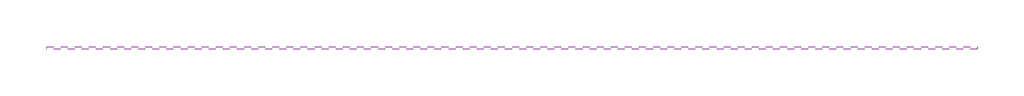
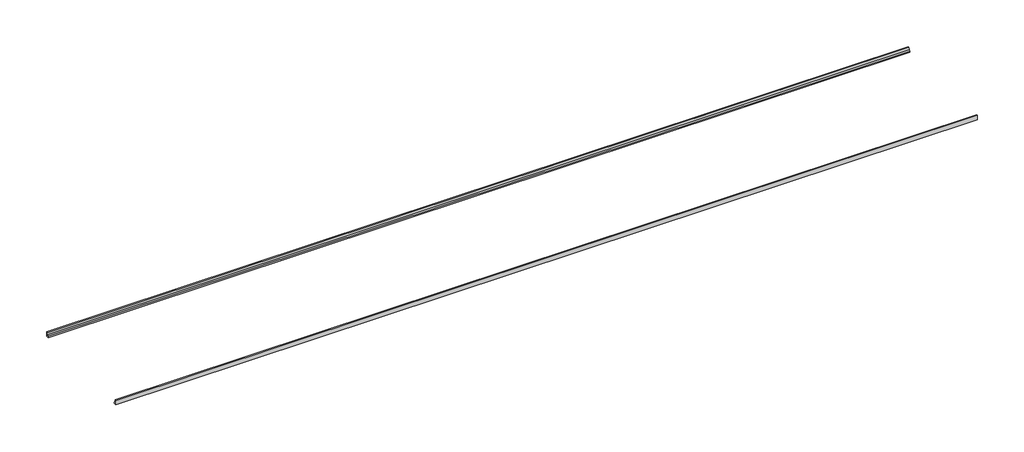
# One storey, incomplete: 1 proxy.
"""IFC4 building model written with IfcOpenShell, lengths in millimetres."""

from ifc_helpers import new_model, si_unit, origin, place, context, project, spatial, transform, mapped, element, save
from components import generic_models_b322bb03

model = new_model("IFC4")

# Units and contexts
model_context = context("Model", 3, world=origin())
ifc_project = project(units=[si_unit("LENGTHUNIT", "METRE", prefix="MILLI")], contexts=[model_context])

# Site, building, storey
site = spatial("IfcSite", under=ifc_project)
building = spatial("IfcBuilding", under=site)
storey = spatial("IfcBuildingStorey", under=building, Name="상단레벨", Elevation=11000.0)

# Proxy
placement = place(None, origin())
generic_models_shape = generic_models_b322bb03(model_context)
element("IfcBuildingElementProxy", 1, Name="방호벽 : 방호벽", ObjectType="방호벽 : 방호벽", at=placement, inside=storey, context=model_context, shape_type="MappedRepresentation", body=[
    mapped(generic_models_shape, transform((0.0, 0.0, 0.0), x_axis=(1.0, 0.0, 0.0), y_axis=(0.0, 1.0, 0.0), z_axis=(0.0, 0.0, 1.0))),
])

save(model, "model.ifc")
